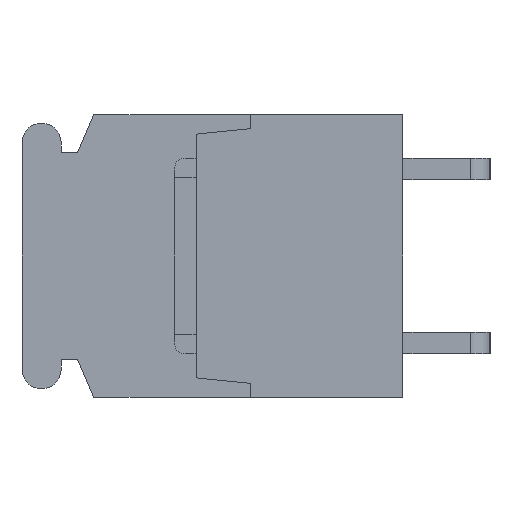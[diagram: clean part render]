
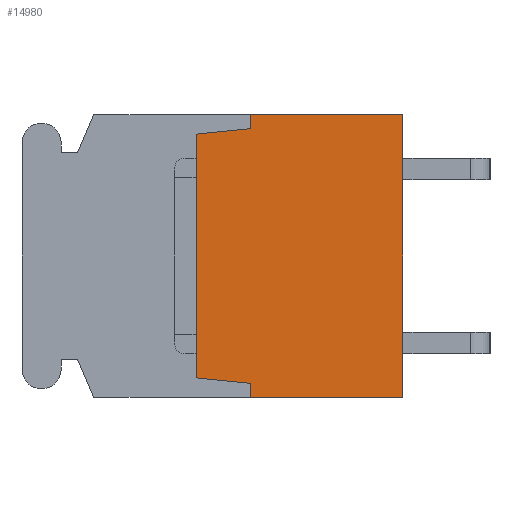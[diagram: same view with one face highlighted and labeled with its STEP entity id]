
A CAD part, left-side view. The second image highlights one B-rep face of the part: STEP entity #14980.
In plain terms, the highlighted planar face has unit normal (-1, 0, 0).
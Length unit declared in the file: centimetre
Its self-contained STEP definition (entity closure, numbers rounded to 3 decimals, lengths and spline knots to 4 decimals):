
#1169=VECTOR('',#16770,1.);
#1220=VECTOR('',#16837,1.);
#1709=VECTOR('',#18045,1.);
#1858=VECTOR('',#18396,1.);
#1859=VECTOR('',#18397,1.);
#1860=VECTOR('',#18398,1.);
#1861=VECTOR('',#18399,1.);
#1862=VECTOR('',#18400,1.);
#2851=LINE('',#20999,#1169);
#2902=LINE('',#21104,#1220);
#3391=LINE('',#22680,#1709);
#3540=LINE('',#23136,#1858);
#3541=LINE('',#23138,#1859);
#3542=LINE('',#23140,#1860);
#3543=LINE('',#23142,#1861);
#3544=LINE('',#23144,#1862);
#4526=VERTEX_POINT('',#20998);
#4527=VERTEX_POINT('',#21000);
#4543=VERTEX_POINT('',#21052);
#4568=VERTEX_POINT('',#21103);
#5164=VERTEX_POINT('',#23137);
#5165=VERTEX_POINT('',#23139);
#5166=VERTEX_POINT('',#23141);
#5167=VERTEX_POINT('',#23143);
#6506=EDGE_CURVE('',#4526,#4527,#2851,.T.);
#6559=EDGE_CURVE('',#4568,#4543,#2902,.T.);
#7265=EDGE_CURVE('',#4543,#4526,#3391,.T.);
#7472=EDGE_CURVE('',#5164,#4568,#3540,.T.);
#7473=EDGE_CURVE('',#5165,#5164,#3541,.T.);
#7474=EDGE_CURVE('',#5166,#5165,#3542,.T.);
#7475=EDGE_CURVE('',#5167,#5166,#3543,.T.);
#7476=EDGE_CURVE('',#4527,#5167,#3544,.T.);
#11418=ORIENTED_EDGE('',*,*,#7265,.F.);
#11419=ORIENTED_EDGE('',*,*,#6559,.F.);
#11420=ORIENTED_EDGE('',*,*,#7472,.F.);
#11421=ORIENTED_EDGE('',*,*,#7473,.F.);
#11422=ORIENTED_EDGE('',*,*,#7474,.F.);
#11423=ORIENTED_EDGE('',*,*,#7475,.F.);
#11424=ORIENTED_EDGE('',*,*,#7476,.F.);
#11425=ORIENTED_EDGE('',*,*,#6506,.F.);
#13174=EDGE_LOOP('',(#11418,#11419,#11420,#11421,#11422,#11423,#11424,#11425));
#14122=FACE_BOUND('',#13174,.T.);
#14980=ADVANCED_FACE('',(#14122),#15655,.F.);
#15655=PLANE('',#25510);
#16770=DIRECTION('',(0.,1.,0.));
#16837=DIRECTION('',(0.,-1.,0.));
#18045=DIRECTION('',(0.,0.,-1.));
#18395=DIRECTION('',(1.,0.,0.));
#18396=DIRECTION('',(0.,0.,1.));
#18397=DIRECTION('',(0.,-0.995,0.1));
#18398=DIRECTION('',(0.,0.,1.));
#18399=DIRECTION('',(0.,0.995,0.1));
#18400=DIRECTION('',(0.,0.,1.));
#20998=CARTESIAN_POINT('',(-1.84,0.,-0.65));
#20999=CARTESIAN_POINT('',(-1.84,0.,-0.65));
#21000=CARTESIAN_POINT('',(-1.84,0.7,-0.65));
#21052=CARTESIAN_POINT('',(-1.84,0.,0.65));
#21103=CARTESIAN_POINT('',(-1.84,0.7,0.65));
#21104=CARTESIAN_POINT('',(-1.84,0.7,0.65));
#22680=CARTESIAN_POINT('',(-1.84,0.,0.65));
#23135=CARTESIAN_POINT('',(-1.84,0.4626,0.));
#23136=CARTESIAN_POINT('',(-1.84,0.7,0.585));
#23137=CARTESIAN_POINT('',(-1.84,0.7,0.585));
#23138=CARTESIAN_POINT('',(-1.84,0.95,0.56));
#23139=CARTESIAN_POINT('',(-1.84,0.95,0.56));
#23140=CARTESIAN_POINT('',(-1.84,0.95,-0.56));
#23141=CARTESIAN_POINT('',(-1.84,0.95,-0.56));
#23142=CARTESIAN_POINT('',(-1.84,0.7,-0.585));
#23143=CARTESIAN_POINT('',(-1.84,0.7,-0.585));
#23144=CARTESIAN_POINT('',(-1.84,0.7,-0.65));
#25510=AXIS2_PLACEMENT_3D('',#23135,#18395,$);
